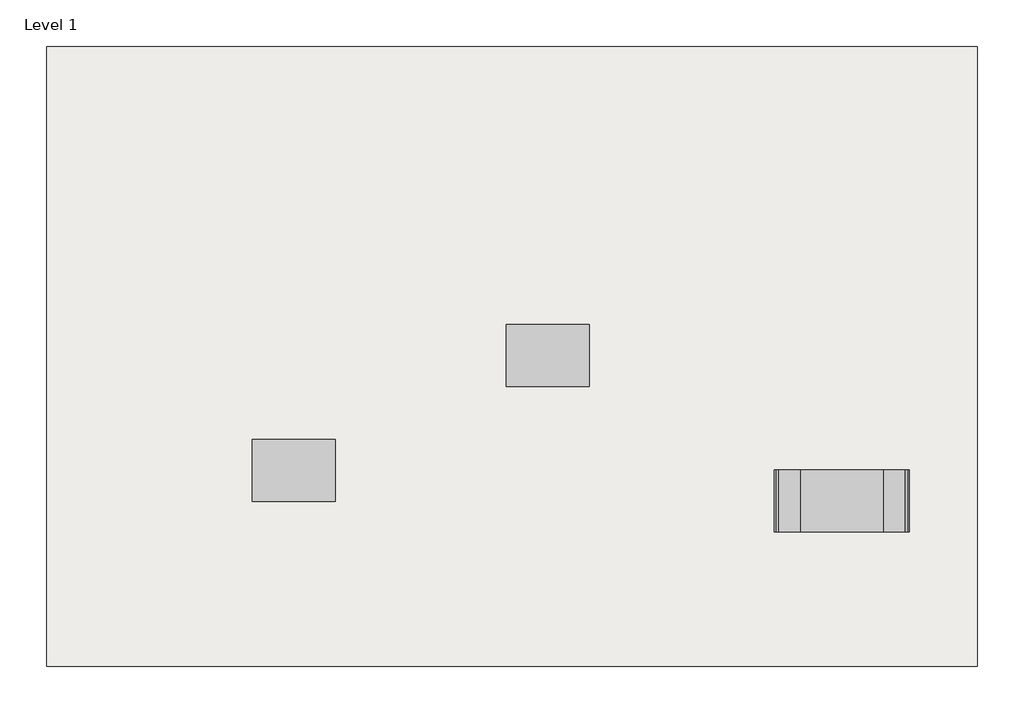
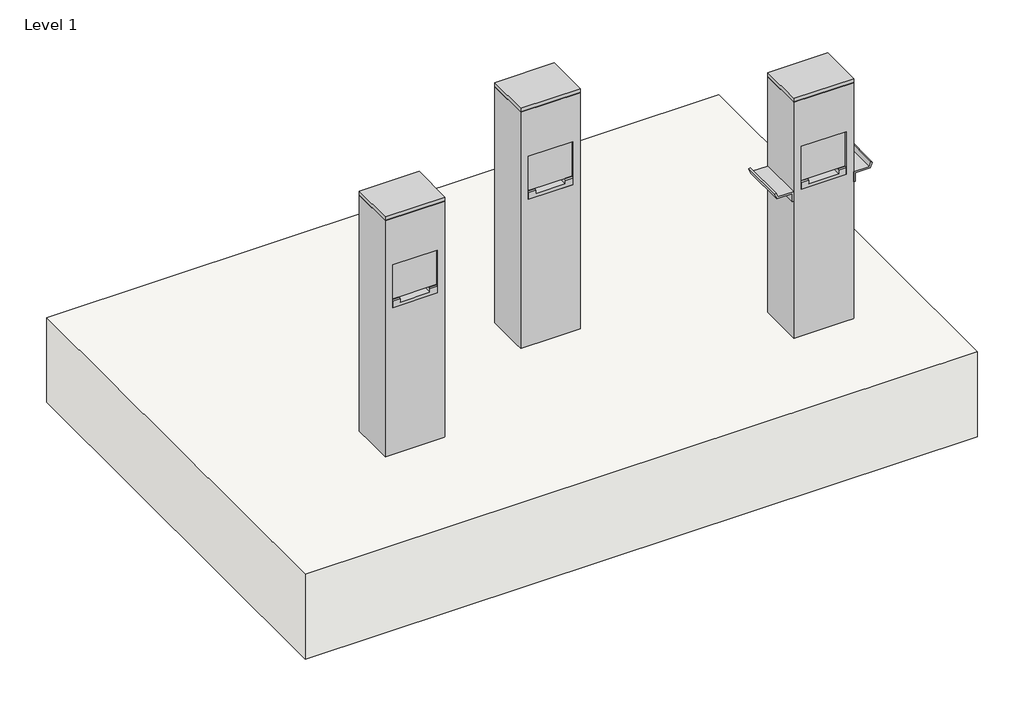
# One storey: 3 proxies, 1 slab.
"""IFC4 building model written with IfcOpenShell, lengths in millimetres."""

from ifc_helpers import new_model, si_unit, frame, origin, place, context, project, spatial, polyline, outline, extrude, transform, mapped, element, save
from components import electrical_fixtures_87f1627c, electrical_fixtures_673e49bc

model = new_model("IFC4")

# Units and contexts
model_context = context("Model", 3, world=origin())
ifc_project = project(units=[si_unit("LENGTHUNIT", "METRE", prefix="MILLI")], contexts=[model_context])

# Site, building, storey
site = spatial("IfcSite", under=ifc_project)
building = spatial("IfcBuilding", under=site)
storey = spatial("IfcBuildingStorey", under=building, Name="Level 1", Elevation=0.0)

# Proxies
placement = place(None, origin())
electrical_fixtures_shape = electrical_fixtures_87f1627c(model_context)
element("IfcBuildingElementProxy", 1, Name="Charging_Station-Wiremold-Power_Pedestal : Power Pedestal, 2 Gangs (0x GFCI, 0x 4USB), Black", ObjectType="Charging_Station-Wiremold-Power_Pedestal : Power Pedestal, 2 Gangs (0x GFCI, 0x 4USB), Black", at=placement, inside=storey, context=model_context, shape_type="MappedRepresentation", body=[
    mapped(electrical_fixtures_shape, transform((2440.1884387, 1073.2583954, 0.0), x_axis=(1.0, 0.0, 0.0), y_axis=(0.0, 1.0, 0.0), z_axis=(0.0, 0.0, 1.0))),
])
element("IfcBuildingElementProxy", 2, Name="Charging_Station-Wiremold-Power_Pedestal : Power Pedestal, 2 Gangs (0x GFCI, 2x 4USB), Silver", ObjectType="Charging_Station-Wiremold-Power_Pedestal : Power Pedestal, 2 Gangs (0x GFCI, 2x 4USB), Silver", at=placement, inside=storey, context=model_context, shape_type="MappedRepresentation", body=[
    mapped(electrical_fixtures_shape, transform((3063.9152274, 1355.6430996, 0.0), x_axis=(1.0, 0.0, 0.0), y_axis=(0.0, 1.0, 0.0), z_axis=(0.0, 0.0, 1.0))),
])
electrical_fixtures_2_shape = electrical_fixtures_673e49bc(model_context)
element("IfcBuildingElementProxy", 3, Name="Charging_Station-Wiremold-Power_Pedestal : Power Pedestal, 3 Gangs (1x GFCI, 2x 4USB), Bronze", ObjectType="Charging_Station-Wiremold-Power_Pedestal : Power Pedestal, 3 Gangs (1x GFCI, 2x 4USB), Bronze", at=placement, inside=storey, context=model_context, shape_type="MappedRepresentation", body=[
    mapped(electrical_fixtures_2_shape, transform((3786.4301588, 998.5574956, 0.0), x_axis=(1.0, 0.0, 0.0), y_axis=(0.0, 1.0, 0.0), z_axis=(0.0, 0.0, 1.0))),
])

# Slab
element("IfcSlab", 4, ObjectType="Generic - 12\"", at=placement, inside=storey, context=model_context, shape_type="SweptSolid", body=[
    extrude(outline(polyline([(4119.1973575, 2115.5766815), (4119.1973575, 592.8311388), (1833.1973575, 592.8311388), (1833.1973575, 2115.5766815), (4119.1973575, 2115.5766815)])), frame((0.0, 0.0, -304.8), z_axis=(0.0, 0.0, 1.0), x_axis=(1.0, 0.0, 0.0)), (0.0, 0.0, 1.0), 304.8),
])

save(model, "model.ifc")
